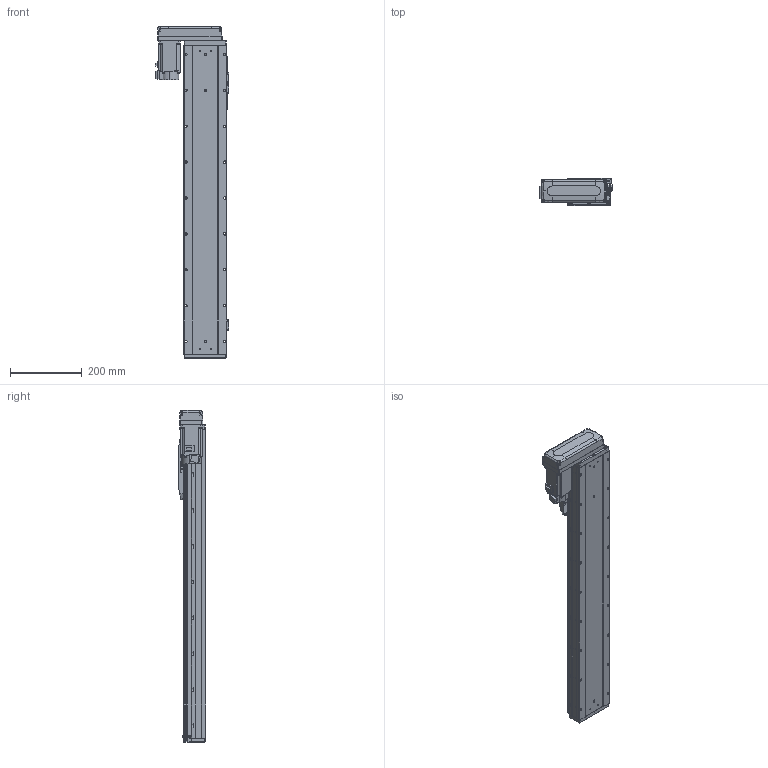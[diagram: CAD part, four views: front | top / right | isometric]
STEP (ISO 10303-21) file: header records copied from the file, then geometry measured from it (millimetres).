
FILE_DESCRIPTION (( 'STEP AP203' ), '1' );
FILE_NAME ('GTH12-650-BR-M40-C4.step', '2023-07-05T00:06:47', ( '微软用户' ), ( '微软中国' ), 'SwSTEP 2.0', 'SolidWorks 2020', '' );
FILE_SCHEMA (( 'CONFIG_CONTROL_DESIGN' ));
Length unit declared in the file: millimetre
Products named in the file (18): GTH120-013; CTHA86-033_M40B; GBT 70.1-M3℅6; GTH120-027-1_GTH120-027-2; GBT 70.1-M5×16; GTH50-023; GTH12-650-BR-M40-C4; GTH120-001_650; GBT 70.3-M3℅8; GTH50-024; GTH120-003; GTH80-022; GBT96.1-2002 3×0.8; GTH120-006; GTH80-028; BTH-M3X5X6; GTH120-004; hg-kn43j_-s100_
Assembly tree (59 placements, depth 2):
  GTH12-650-BR-M40-C4
    GTH120-001_650
    GTH120-003
    GTH120-006
    GTH120-004
    GTH120-013
    GBT 70.1-M3℅6  x14
    GBT 70.1-M5×16  x10
    GBT 70.3-M3℅8  x4
    GTH80-022
    GTH80-028  x2
    GTH50-023  x3
    GTH50-024  x3
    GBT96.1-2002 3×0.8  x6
    BTH-M3X5X6  x8
    hg-kn43j_-s100_
    CTHA86-033_M40B
    GTH120-027-1_GTH120-027-2
Bounding box: 203.5 x 76 x 925.5 mm (x, y, z)
Volume: 6887553.4 mm3; surface area: 637627.6 mm2
Topology: 61 solids, 61 shells, 2451 faces, 5716 edges, 3507 vertices
Faces by surface type: plane 1262, cylinder 709, cone 292, torus 174, sphere 8, bspline 6
Entity records: 45814 total; most frequent: CARTESIAN_POINT 7760, DIRECTION 7584, ORIENTED_EDGE 7042, EDGE_CURVE 3521, AXIS2_PLACEMENT_3D 2652, LINE 2280, VECTOR 2280, VERTEX_POINT 2228
